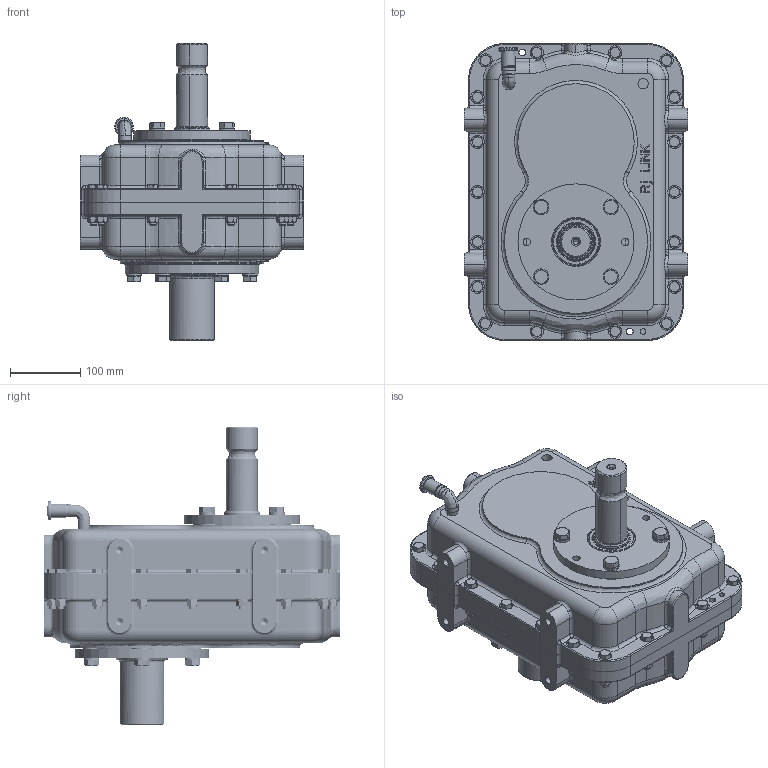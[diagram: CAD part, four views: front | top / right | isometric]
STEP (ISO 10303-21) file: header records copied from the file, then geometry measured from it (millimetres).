
FILE_DESCRIPTION (( 'STEP AP214' ), '1' );
FILE_NAME ('D190A200006.STEP', '2022-03-10T18:11:30', ( '' ), ( '' ), 'SwSTEP 2.0', 'SolidWorks 2021', '' );
FILE_SCHEMA (( 'AUTOMOTIVE_DESIGN' ));
Length unit declared in the file: inch
Products named in the file (25): HHCSZ.50-13x1.25_HHCSZ.50-13X1.50; HNZ.38-16_HNZ .38-16; D190007; D190003; OS2.00X2.623-2; LWZ.38_Regular LW 0.38; SHK21820; D190023; NP266409-1; SHK22207; D105017; D190022; OS2.938X3.751-2; STEL.38NPT90; SHK21805; D190001H; HHCSZ.38-16x2.00_HHCSZ.3750-16x1.625; SHK22205; SHK21807; D190008; D190001C; SHK22220; LWZ.50_LWZ 0.5; AV313650; D190A200006
Assembly tree (101 placements, depth 2):
  D190A200006
    D190001H
    D190022
    D190001C
    SHK22220
    SHK22207  x3
    SHK22205  x3
    D190003
    D190023
    D105017
    D190007
    SHK21820
    SHK21807  x3
    SHK21805  x3
    D190008
    OS2.938X3.751-2
    LWZ.38_Regular LW 0.38  x18
    HNZ.38-16_HNZ .38-16  x18
    LWZ.50_LWZ 0.5  x10
    HHCSZ.50-13x1.25_HHCSZ.50-13X1.50  x10
    STEL.38NPT90
    AV313650
    NP266409-1
    HHCSZ.38-16x2.00_HHCSZ.3750-16x1.625  x18
    OS2.00X2.623-2
Bounding box: 317.5 x 421.39 x 421.97 mm (x, y, z)
Volume: 6521265.1 mm3; surface area: 1598614.2 mm2
Topology: 101 solids, 117 shells, 4166 faces, 10373 edges, 6480 vertices
Faces by surface type: plane 1757, cylinder 1449, cone 628, bspline 162, torus 150, sphere 20
Entity records: 98425 total; most frequent: CARTESIAN_POINT 31039, DIRECTION 13660, ORIENTED_EDGE 13620, EDGE_CURVE 6836, AXIS2_PLACEMENT_3D 4837, VERTEX_POINT 4385, VECTOR 3986, LINE 3986
